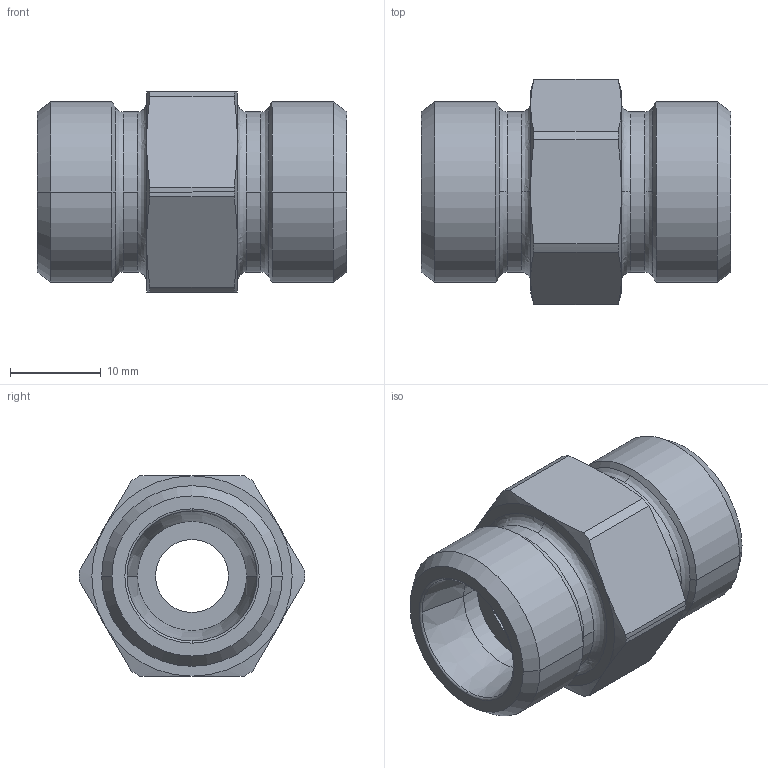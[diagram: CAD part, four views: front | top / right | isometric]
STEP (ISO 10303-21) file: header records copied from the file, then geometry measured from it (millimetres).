
FILE_DESCRIPTION((''),'2;1');
FILE_NAME('103517.stp','2007-10-31T11:33:06',(''),(''),'AutoCAD STEP 2000i','AutoCAD 2000i',', , ');
FILE_SCHEMA(('CONFIG_CONTROL_DESIGN'));
Length unit declared in the file: millimetre
Products named in the file (2): 103517.0; CHIAVE SMUSSATA#0
Assembly tree (1 placements, depth 2):
  103517.0
    CHIAVE SMUSSATA#0
Bounding box: 34 x 24.8 x 22 mm (x, y, z)
Volume: 8135.9 mm3; surface area: 3962.5 mm2
Topology: 1 solids, 1 shells, 70 faces, 172 edges, 108 vertices
Faces by surface type: cone 24, cylinder 22, plane 12, bspline 8, torus 4
Entity records: 2513 total; most frequent: CARTESIAN_POINT 752, DIRECTION 384, ORIENTED_EDGE 344, AXIS2_PLACEMENT_3D 172, EDGE_CURVE 172, VERTEX_POINT 108, CIRCLE 108, EDGE_LOOP 76
